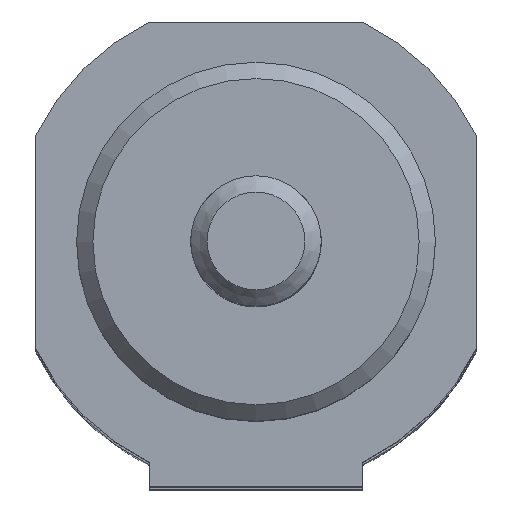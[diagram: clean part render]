
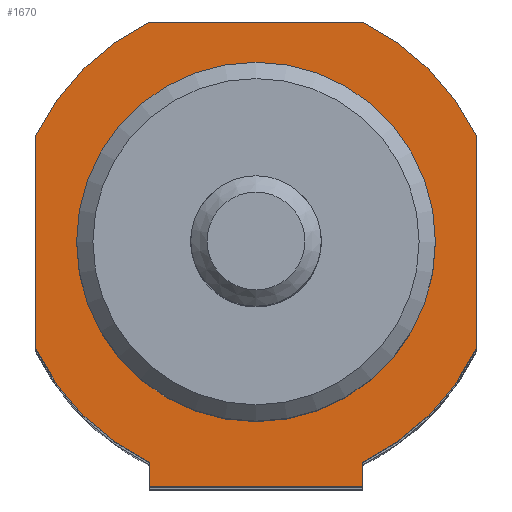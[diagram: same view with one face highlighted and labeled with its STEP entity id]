
A CAD part, top view. The second image highlights one B-rep face of the part: STEP entity #1670.
In plain terms, the highlighted planar face has unit normal (0, 0, 1).
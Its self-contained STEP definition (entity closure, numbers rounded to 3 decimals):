
#101=CARTESIAN_POINT('',(6.538,-15.,131.));
#102=VERTEX_POINT('',#101);
#103=CARTESIAN_POINT('',(-6.538,-15.,131.));
#104=VERTEX_POINT('',#103);
#105=CARTESIAN_POINT('',(6.538,-15.,131.));
#106=DIRECTION('',(-1.0,0.0,0.0));
#107=VECTOR('',#106,13.077);
#108=LINE('',#105,#107);
#109=EDGE_CURVE('',#102,#104,#108,.T.);
#257=CARTESIAN_POINT('',(-6.538,-13.5,131.));
#258=VERTEX_POINT('',#257);
#272=CARTESIAN_POINT('',(-6.538,-13.5,131.));
#273=DIRECTION('',(0.0,-1.0,0.0));
#274=VECTOR('',#273,1.5);
#275=LINE('',#272,#274);
#276=EDGE_CURVE('',#258,#104,#275,.T.);
#288=CARTESIAN_POINT('',(6.538,-13.5,131.));
#289=VERTEX_POINT('',#288);
#296=CARTESIAN_POINT('',(6.538,-13.5,131.));
#297=DIRECTION('',(0.0,-1.0,0.0));
#298=VECTOR('',#297,1.5);
#299=LINE('',#296,#298);
#300=EDGE_CURVE('',#289,#102,#299,.T.);
#1398=CARTESIAN_POINT('',(11.0,0.,131.));
#1399=VERTEX_POINT('',#1398);
#1400=CARTESIAN_POINT('',(0.,0.,131.));
#1401=DIRECTION('',(0.0,0.0,-1.0));
#1402=DIRECTION('',(-1.0,0.0,0.0));
#1403=AXIS2_PLACEMENT_3D('',#1400,#1401,#1402);
#1404=CIRCLE('',#1403,11.0);
#1405=EDGE_CURVE('',#1399,#1399,#1404,.T.);
#1490=CARTESIAN_POINT('',(-6.538,13.5,131.));
#1491=VERTEX_POINT('',#1490);
#1492=CARTESIAN_POINT('',(6.538,13.5,131.));
#1493=VERTEX_POINT('',#1492);
#1494=CARTESIAN_POINT('',(-6.538,13.5,131.));
#1495=DIRECTION('',(1.0,0.0,0.0));
#1496=VECTOR('',#1495,13.077);
#1497=LINE('',#1494,#1496);
#1498=EDGE_CURVE('',#1491,#1493,#1497,.T.);
#1521=CARTESIAN_POINT('',(13.5,6.538,131.));
#1522=VERTEX_POINT('',#1521);
#1523=CARTESIAN_POINT('',(0.,0.,131.0));
#1524=DIRECTION('',(0.,0.,-1.0));
#1525=DIRECTION('',(0.9,0.436,0.));
#1526=AXIS2_PLACEMENT_3D('',#1523,#1524,#1525);
#1527=CIRCLE('',#1526,15.);
#1528=EDGE_CURVE('',#1493,#1522,#1527,.T.);
#1546=CARTESIAN_POINT('',(13.5,-6.538,131.));
#1547=VERTEX_POINT('',#1546);
#1548=CARTESIAN_POINT('',(13.5,6.538,131.));
#1549=DIRECTION('',(0.0,-1.0,0.0));
#1550=VECTOR('',#1549,13.077);
#1551=LINE('',#1548,#1550);
#1552=EDGE_CURVE('',#1522,#1547,#1551,.T.);
#1570=CARTESIAN_POINT('',(0.,0.,131.0));
#1571=DIRECTION('',(0.,0.,-1.0));
#1572=DIRECTION('',(0.436,-0.9,0.));
#1573=AXIS2_PLACEMENT_3D('',#1570,#1571,#1572);
#1574=CIRCLE('',#1573,15.);
#1575=EDGE_CURVE('',#1547,#289,#1574,.T.);
#1588=CARTESIAN_POINT('',(-13.5,-6.538,131.));
#1589=VERTEX_POINT('',#1588);
#1590=CARTESIAN_POINT('',(0.,0.,131.0));
#1591=DIRECTION('',(0.,0.,-1.0));
#1592=DIRECTION('',(-0.9,-0.436,0.));
#1593=AXIS2_PLACEMENT_3D('',#1590,#1591,#1592);
#1594=CIRCLE('',#1593,15.);
#1595=EDGE_CURVE('',#258,#1589,#1594,.T.);
#1613=CARTESIAN_POINT('',(-13.5,6.538,131.));
#1614=VERTEX_POINT('',#1613);
#1615=CARTESIAN_POINT('',(-13.5,-6.538,131.));
#1616=DIRECTION('',(0.0,1.0,0.0));
#1617=VECTOR('',#1616,13.077);
#1618=LINE('',#1615,#1617);
#1619=EDGE_CURVE('',#1589,#1614,#1618,.T.);
#1637=CARTESIAN_POINT('',(0.,0.,131.0));
#1638=DIRECTION('',(0.,0.,-1.0));
#1639=DIRECTION('',(-0.436,0.9,0.));
#1640=AXIS2_PLACEMENT_3D('',#1637,#1638,#1639);
#1641=CIRCLE('',#1640,15.);
#1642=EDGE_CURVE('',#1614,#1491,#1641,.T.);
#1650=CARTESIAN_POINT('',(0.,0.0,131.));
#1651=DIRECTION('',(0.0,0.0,1.0));
#1652=DIRECTION('',(1.0,0.0,0.0));
#1653=AXIS2_PLACEMENT_3D('',#1650,#1651,#1652);
#1654=PLANE('',#1653);
#1655=ORIENTED_EDGE('',*,*,#1498,.F.);
#1656=ORIENTED_EDGE('',*,*,#1642,.F.);
#1657=ORIENTED_EDGE('',*,*,#1619,.F.);
#1658=ORIENTED_EDGE('',*,*,#1595,.F.);
#1659=ORIENTED_EDGE('',*,*,#276,.T.);
#1660=ORIENTED_EDGE('',*,*,#109,.F.);
#1661=ORIENTED_EDGE('',*,*,#300,.F.);
#1662=ORIENTED_EDGE('',*,*,#1575,.F.);
#1663=ORIENTED_EDGE('',*,*,#1552,.F.);
#1664=ORIENTED_EDGE('',*,*,#1528,.F.);
#1665=EDGE_LOOP('',(#1655,#1656,#1657,#1658,#1659,#1660,#1661,#1662,#1663,#1664));
#1666=FACE_OUTER_BOUND('',#1665,.T.);
#1667=ORIENTED_EDGE('',*,*,#1405,.T.);
#1668=EDGE_LOOP('',(#1667));
#1669=FACE_BOUND('',#1668,.T.);
#1670=ADVANCED_FACE('',(#1666,#1669),#1654,.T.);
